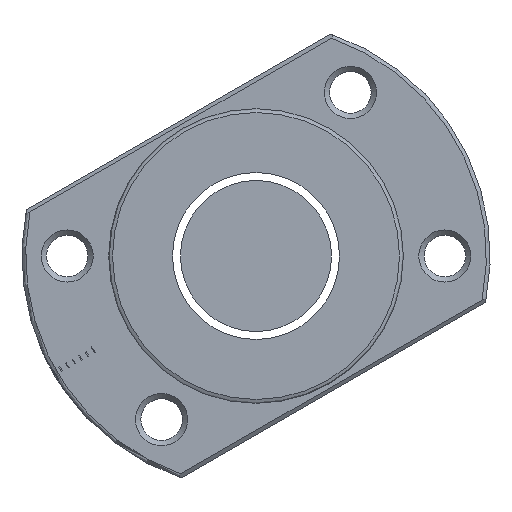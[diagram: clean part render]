
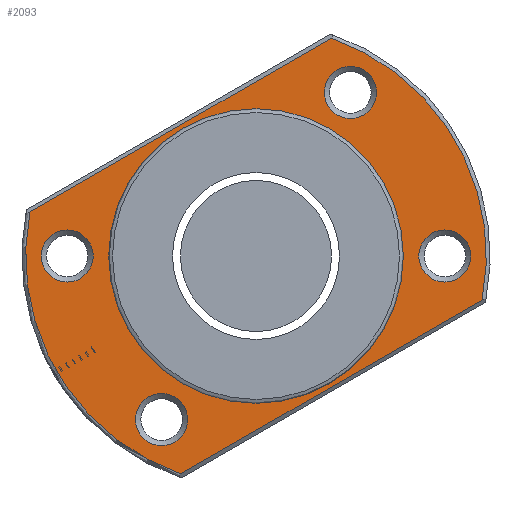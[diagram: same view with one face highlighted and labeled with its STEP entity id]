
A CAD part, left-side view. The second image highlights one B-rep face of the part: STEP entity #2093.
In plain terms, the highlighted planar face has unit normal (-1, 0, 0).
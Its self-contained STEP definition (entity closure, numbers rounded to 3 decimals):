
#88 = ORIENTED_EDGE ( 'NONE', *, *, #2146, .T. ) ;
#122 = VECTOR ( 'NONE', #1883, 1000. ) ;
#135 = DIRECTION ( 'NONE',  ( -1., 0., 0. ) ) ;
#191 = DIRECTION ( 'NONE',  ( 0., 0., 1. ) ) ;
#250 = ORIENTED_EDGE ( 'NONE', *, *, #2388, .T. ) ;
#258 = CARTESIAN_POINT ( 'NONE',  ( -75., 0., 0. ) ) ;
#263 = AXIS2_PLACEMENT_3D ( 'NONE', #258, #972, #2815 ) ;
#341 = AXIS2_PLACEMENT_3D ( 'NONE', #2902, #2451, #409 ) ;
#354 = CARTESIAN_POINT ( 'NONE',  ( -75., -29.942, -5.807 ) ) ;
#381 = FACE_OUTER_BOUND ( 'NONE', #2037, .T. ) ;
#403 = CARTESIAN_POINT ( 'NONE',  ( -75., 0., 0. ) ) ;
#406 = DIRECTION ( 'NONE',  ( 0., 0.866, -0.5 ) ) ;
#409 = DIRECTION ( 'NONE',  ( 0., 0., 1. ) ) ;
#436 = VECTOR ( 'NONE', #406, 1000. ) ;
#437 = CARTESIAN_POINT ( 'NONE',  ( -75., -12.5, 25.101 ) ) ;
#440 = VERTEX_POINT ( 'NONE', #2742 ) ;
#461 = VERTEX_POINT ( 'NONE', #354 ) ;
#484 = AXIS2_PLACEMENT_3D ( 'NONE', #846, #2515, #863 ) ;
#498 = CARTESIAN_POINT ( 'NONE',  ( -75., -25., 0. ) ) ;
#579 = AXIS2_PLACEMENT_3D ( 'NONE', #1967, #2948, #2692 ) ;
#628 = FACE_BOUND ( 'NONE', #1022, .T. ) ;
#669 = VERTEX_POINT ( 'NONE', #802 ) ;
#688 = VERTEX_POINT ( 'NONE', #1820 ) ;
#802 = CARTESIAN_POINT ( 'NONE',  ( -75., 9.942, -28.834 ) ) ;
#846 = CARTESIAN_POINT ( 'NONE',  ( -75., 12.5, -21.651 ) ) ;
#863 = DIRECTION ( 'NONE',  ( 0., 0., 1. ) ) ;
#910 = CIRCLE ( 'NONE', #484, 3.45 ) ;
#943 = CARTESIAN_POINT ( 'NONE',  ( -75., 0., 0. ) ) ;
#972 = DIRECTION ( 'NONE',  ( 1., 0., 0. ) ) ;
#1022 = EDGE_LOOP ( 'NONE', ( #88 ) ) ;
#1073 = CARTESIAN_POINT ( 'NONE',  ( -75., -9.942, 28.834 ) ) ;
#1088 = FACE_BOUND ( 'NONE', #2853, .T. ) ;
#1115 = CIRCLE ( 'NONE', #1547, 30.5 ) ;
#1118 = EDGE_LOOP ( 'NONE', ( #2399 ) ) ;
#1130 = VERTEX_POINT ( 'NONE', #2707 ) ;
#1194 = EDGE_CURVE ( 'NONE', #2010, #2010, #1499, .T. ) ;
#1195 = DIRECTION ( 'NONE',  ( 0., 0., 1. ) ) ;
#1285 = FACE_BOUND ( 'NONE', #1118, .T. ) ;
#1290 = ORIENTED_EDGE ( 'NONE', *, *, #1194, .T. ) ;
#1316 = CARTESIAN_POINT ( 'NONE',  ( -75., 25., 3.45 ) ) ;
#1320 = EDGE_CURVE ( 'NONE', #440, #669, #1115, .T. ) ;
#1359 = LINE ( 'NONE', #2026, #436 ) ;
#1408 = CIRCLE ( 'NONE', #263, 19.5 ) ;
#1467 = EDGE_CURVE ( 'NONE', #2221, #2221, #1408, .T. ) ;
#1499 = CIRCLE ( 'NONE', #2554, 3.45 ) ;
#1536 = EDGE_CURVE ( 'NONE', #669, #461, #1897, .T. ) ;
#1547 = AXIS2_PLACEMENT_3D ( 'NONE', #403, #135, #191 ) ;
#1722 = CIRCLE ( 'NONE', #341, 3.45 ) ;
#1727 = EDGE_LOOP ( 'NONE', ( #2195 ) ) ;
#1775 = CARTESIAN_POINT ( 'NONE',  ( -75., 0., -19.5 ) ) ;
#1786 = ORIENTED_EDGE ( 'NONE', *, *, #1536, .T. ) ;
#1795 = ORIENTED_EDGE ( 'NONE', *, *, #1320, .T. ) ;
#1820 = CARTESIAN_POINT ( 'NONE',  ( -75., -25., 3.45 ) ) ;
#1840 = EDGE_CURVE ( 'NONE', #2031, #440, #1359, .T. ) ;
#1853 = DIRECTION ( 'NONE',  ( 0., 0., 1. ) ) ;
#1883 = DIRECTION ( 'NONE',  ( 0., -0.866, 0.5 ) ) ;
#1897 = LINE ( 'NONE', #2525, #122 ) ;
#1955 = AXIS2_PLACEMENT_3D ( 'NONE', #498, #2541, #1853 ) ;
#1967 = CARTESIAN_POINT ( 'NONE',  ( -75., 31., 0. ) ) ;
#2010 = VERTEX_POINT ( 'NONE', #1316 ) ;
#2026 = CARTESIAN_POINT ( 'NONE',  ( -75., 33.25, 3.897 ) ) ;
#2031 = VERTEX_POINT ( 'NONE', #1073 ) ;
#2037 = EDGE_LOOP ( 'NONE', ( #2477, #1795, #1786, #250 ) ) ;
#2042 = DIRECTION ( 'NONE',  ( -1., 0., 0. ) ) ;
#2093 = ADVANCED_FACE ( 'NONE', ( #1285, #2659, #628, #2436, #1088, #381 ), #2192, .T. ) ;
#2146 = EDGE_CURVE ( 'NONE', #2266, #2266, #1722, .T. ) ;
#2192 = PLANE ( 'NONE',  #579 ) ;
#2195 = ORIENTED_EDGE ( 'NONE', *, *, #2435, .T. ) ;
#2221 = VERTEX_POINT ( 'NONE', #1775 ) ;
#2266 = VERTEX_POINT ( 'NONE', #437 ) ;
#2275 = ORIENTED_EDGE ( 'NONE', *, *, #1467, .T. ) ;
#2388 = EDGE_CURVE ( 'NONE', #461, #2031, #2823, .T. ) ;
#2399 = ORIENTED_EDGE ( 'NONE', *, *, #2654, .T. ) ;
#2435 = EDGE_CURVE ( 'NONE', #688, #688, #2529, .T. ) ;
#2436 = FACE_BOUND ( 'NONE', #2518, .T. ) ;
#2451 = DIRECTION ( 'NONE',  ( 1., 0., 0. ) ) ;
#2477 = ORIENTED_EDGE ( 'NONE', *, *, #1840, .T. ) ;
#2503 = DIRECTION ( 'NONE',  ( 1., 0., 0. ) ) ;
#2515 = DIRECTION ( 'NONE',  ( 1., 0., 0. ) ) ;
#2518 = EDGE_LOOP ( 'NONE', ( #1290 ) ) ;
#2525 = CARTESIAN_POINT ( 'NONE',  ( -75., 13.25, -30.744 ) ) ;
#2529 = CIRCLE ( 'NONE', #1955, 3.45 ) ;
#2541 = DIRECTION ( 'NONE',  ( 1., 0., 0. ) ) ;
#2554 = AXIS2_PLACEMENT_3D ( 'NONE', #2746, #2503, #2762 ) ;
#2654 = EDGE_CURVE ( 'NONE', #1130, #1130, #910, .T. ) ;
#2659 = FACE_BOUND ( 'NONE', #1727, .T. ) ;
#2692 = DIRECTION ( 'NONE',  ( 0., 0., 1. ) ) ;
#2707 = CARTESIAN_POINT ( 'NONE',  ( -75., 12.5, -18.201 ) ) ;
#2742 = CARTESIAN_POINT ( 'NONE',  ( -75., 29.942, 5.807 ) ) ;
#2746 = CARTESIAN_POINT ( 'NONE',  ( -75., 25., 0. ) ) ;
#2762 = DIRECTION ( 'NONE',  ( 0., 0., 1. ) ) ;
#2815 = DIRECTION ( 'NONE',  ( 0., 0., -1. ) ) ;
#2823 = CIRCLE ( 'NONE', #2871, 30.5 ) ;
#2853 = EDGE_LOOP ( 'NONE', ( #2275 ) ) ;
#2871 = AXIS2_PLACEMENT_3D ( 'NONE', #943, #2042, #1195 ) ;
#2902 = CARTESIAN_POINT ( 'NONE',  ( -75., -12.5, 21.651 ) ) ;
#2948 = DIRECTION ( 'NONE',  ( -1., 0., 0. ) ) ;
